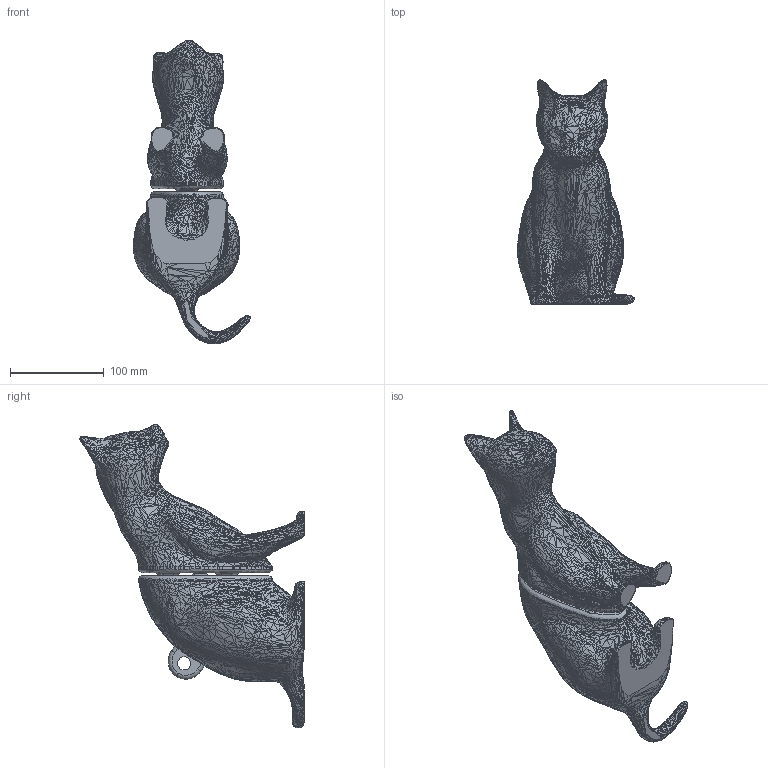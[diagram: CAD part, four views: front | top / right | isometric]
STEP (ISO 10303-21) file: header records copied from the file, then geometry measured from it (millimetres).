
FILE_DESCRIPTION(/* description */ (''),/* implementation_level */ '2;1');
FILE_NAME(/* name */ 'Assieme_gatto_v2.stp',/* time_stamp */ '2024-11-02T20:24:04+01:00',/* author */ ('R5800u'),/* organization */ (''),/* preprocessor_version */ 'ST-DEVELOPER v20',/* originating_system */ 'Autodesk Inventor 2025',/* authorisation */ '');
FILE_SCHEMA (('AUTOMOTIVE_DESIGN { 1 0 10303 214 3 1 1 }'));
Products named in the file (3): Assieme_gatto; Sitting cat b; Sitting cat B008523 file stl free download 3D Model for CNC and 3d pr
inter
Assembly tree (2 placements, depth 2):
  Assieme_gatto
    Sitting cat b
    Sitting cat B008523 file stl free download 3D Model for CNC and 3d pr
inter
Bounding box: 124.35 x 239.2 x 324.02 mm (x, y, z)
Volume: 2035148.9 mm3; surface area: 149476.8 mm2
Topology: 2 solids, 2 shells, 13639 faces, 21248 edges, 7609 vertices
Faces by surface type: plane 13575, cylinder 30, bspline 19, torus 15
Full cylindrical faces by diameter (mm): 14 x1
Entity records: 280819 total; most frequent: CARTESIAN_POINT 51010, DIRECTION 48149, ORIENTED_EDGE 42484, EDGE_CURVE 21242, LINE 20715, VECTOR 20715, AXIS2_PLACEMENT_3D 13717, EDGE_LOOP 13641
